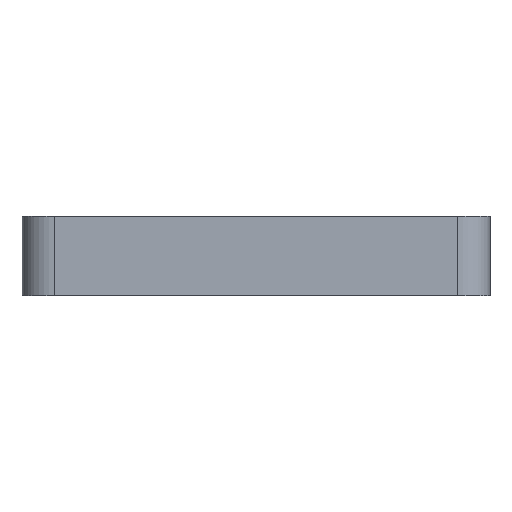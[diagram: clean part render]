
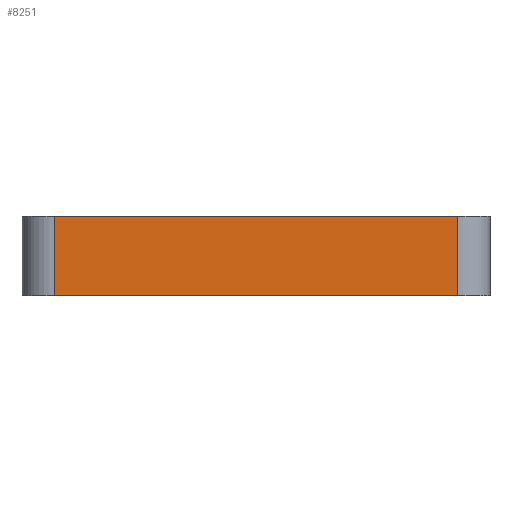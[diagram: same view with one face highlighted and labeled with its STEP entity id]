
A CAD part, left-side view. The second image highlights one B-rep face of the part: STEP entity #8251.
In plain terms, the highlighted free-form (B-spline) face has degree [1, 1] with [2, 2] control points.
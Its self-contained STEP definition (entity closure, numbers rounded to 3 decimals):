
#5065 = EDGE_CURVE('',#5066,#5068,#5070,.T.);
#5066 = VERTEX_POINT('',#5067);
#5067 = CARTESIAN_POINT('',(-29.,25.,9.8));
#5068 = VERTEX_POINT('',#5069);
#5069 = CARTESIAN_POINT('',(-29.,-25.,9.8));
#5070 = B_SPLINE_CURVE_WITH_KNOTS('',1,(#5071,#5072),.UNSPECIFIED.,.F.,
  .F.,(2,2),(4.,54.),.PIECEWISE_BEZIER_KNOTS.);
#5071 = CARTESIAN_POINT('',(-29.,25.,9.8));
#5072 = CARTESIAN_POINT('',(-29.,-25.,9.8));
#8181 = EDGE_CURVE('',#8182,#8184,#8186,.T.);
#8182 = VERTEX_POINT('',#8183);
#8183 = CARTESIAN_POINT('',(-29.,25.,0.));
#8184 = VERTEX_POINT('',#8185);
#8185 = CARTESIAN_POINT('',(-29.,-25.,0.));
#8186 = B_SPLINE_CURVE_WITH_KNOTS('',1,(#8187,#8188),.UNSPECIFIED.,.F.,
  .F.,(2,2),(4.,54.),.PIECEWISE_BEZIER_KNOTS.);
#8187 = CARTESIAN_POINT('',(-29.,25.,0.));
#8188 = CARTESIAN_POINT('',(-29.,-25.,0.));
#8251 = ADVANCED_FACE('',(#8252),#8266,.F.);
#8252 = FACE_BOUND('',#8253,.F.);
#8253 = EDGE_LOOP('',(#8254,#8255,#8260,#8261));
#8254 = ORIENTED_EDGE('',*,*,#8181,.F.);
#8255 = ORIENTED_EDGE('',*,*,#8256,.F.);
#8256 = EDGE_CURVE('',#5066,#8182,#8257,.T.);
#8257 = B_SPLINE_CURVE_WITH_KNOTS('',1,(#8258,#8259),.UNSPECIFIED.,.F.,
  .F.,(2,2),(0.,9.8),.PIECEWISE_BEZIER_KNOTS.);
#8258 = CARTESIAN_POINT('',(-29.,25.,9.8));
#8259 = CARTESIAN_POINT('',(-29.,25.,0.));
#8260 = ORIENTED_EDGE('',*,*,#5065,.T.);
#8261 = ORIENTED_EDGE('',*,*,#8262,.T.);
#8262 = EDGE_CURVE('',#5068,#8184,#8263,.T.);
#8263 = B_SPLINE_CURVE_WITH_KNOTS('',1,(#8264,#8265),.UNSPECIFIED.,.F.,
  .F.,(2,2),(0.,9.8),.PIECEWISE_BEZIER_KNOTS.);
#8264 = CARTESIAN_POINT('',(-29.,-25.,9.8));
#8265 = CARTESIAN_POINT('',(-29.,-25.,0.));
#8266 = B_SPLINE_SURFACE_WITH_KNOTS('',1,1,(
    (#8267,#8268)
    ,(#8269,#8270
    )),.UNSPECIFIED.,.F.,.F.,.F.,(2,2),(2,2),(0.,9.8),(-54.,-4.),
  .PIECEWISE_BEZIER_KNOTS.);
#8267 = CARTESIAN_POINT('',(-29.,-25.,9.8));
#8268 = CARTESIAN_POINT('',(-29.,25.,9.8));
#8269 = CARTESIAN_POINT('',(-29.,-25.,0.));
#8270 = CARTESIAN_POINT('',(-29.,25.,0.));
